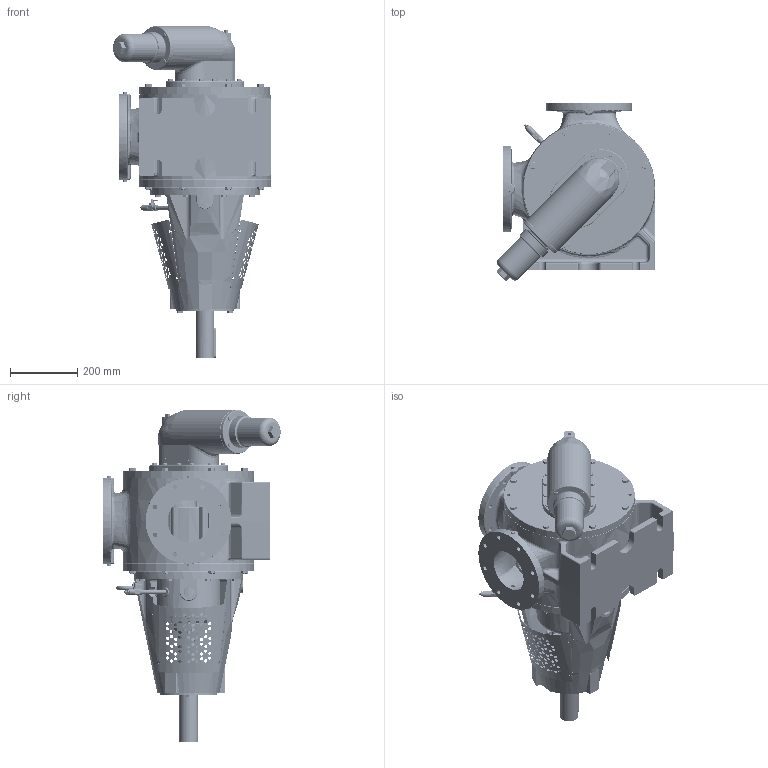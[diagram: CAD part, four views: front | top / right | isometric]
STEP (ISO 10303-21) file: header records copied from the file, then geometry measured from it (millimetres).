
FILE_DESCRIPTION((''),'2;1');
FILE_NAME('HD1525_ASM','2023-09-07T',('blli'),(''),'PRO/ENGINEER BY PARAMETRIC TECHNOLOGY CORPORATION, 2017170','PRO/ENGINEER BY PARAMETRIC TECHNOLOGY CORPORATION, 2017170','');
FILE_SCHEMA(('CONFIG_CONTROL_DESIGN'));
Length unit declared in the file: millimetre
Products named in the file (40): 11525-001AA342; 0030-330DC900; 11524-002BA342; 1152-005AA225; 1152-020AA050; 1152-004AA225; 0051-070AA225; 1080-042AA215; 0045-070AB020; 0049-130AA225; 1126-043AA070; 700299; 704059; 3127-000DA225; 1080-046AA020; 1200-037AA215; 8313_BYPASS_HD126_151_ASM; 1152-003DD342; 0010-165AA220; 0006-070ED342; 0068-165AA104_AF0; 0028-060KA035; 1838156; 0012-130RB215; 0012-130RA215; 700319; 700313; 700312; 3030-000KA030; 760279; 3008-075KA080; 700305; 3110-001CA225; 3400-090KA030; 709050; 1843877; 3161-000BB767; 701692; 704288; HD1525_ASM
Assembly tree (87 placements, depth 3):
  HD1525_ASM
    11525-001AA342
    0030-330DC900  x2
    11524-002BA342
    1152-005AA225
    1152-020AA050
    1152-004AA225
    8313_BYPASS_HD126_151_ASM
      0051-070AA225
      1080-042AA215
      0045-070AB020  x2
      0049-130AA225
      1126-043AA070
      700299  x4
      704059
      3127-000DA225
      1080-046AA020
      1200-037AA215
    1152-003DD342
    0010-165AA220
    0006-070ED342
    0068-165AA104_AF0  x2
    0028-060KA035
    1838156
    0012-130RB215
    0012-130RA215
    700319  x16
    700313  x8
    700312  x4
    3030-000KA030  x2
    760279  x2
    3008-075KA080  x2
    700305  x12
    3110-001CA225  x4
    3400-090KA030
    709050
    1843877
    3161-000BB767
    701692
    704288
Bounding box: 470.78 x 527.77 x 985.5 mm (x, y, z)
Volume: 41654656.5 mm3; surface area: 4734534.1 mm2
Topology: 95 solids, 193 shells, 5015 faces, 12592 edges, 7853 vertices
Faces by surface type: plane 1535, cylinder 1190, bspline 915, cone 821, torus 253, extrusion 247, sphere 50, revolution 4
Entity records: 207373 total; most frequent: CARTESIAN_POINT 115398, ORIENTED_EDGE 19670, DIRECTION 17142, EDGE_CURVE 10066, VERTEX_POINT 6377, AXIS2_PLACEMENT_3D 6365, EDGE_LOOP 4544, VECTOR 4408
